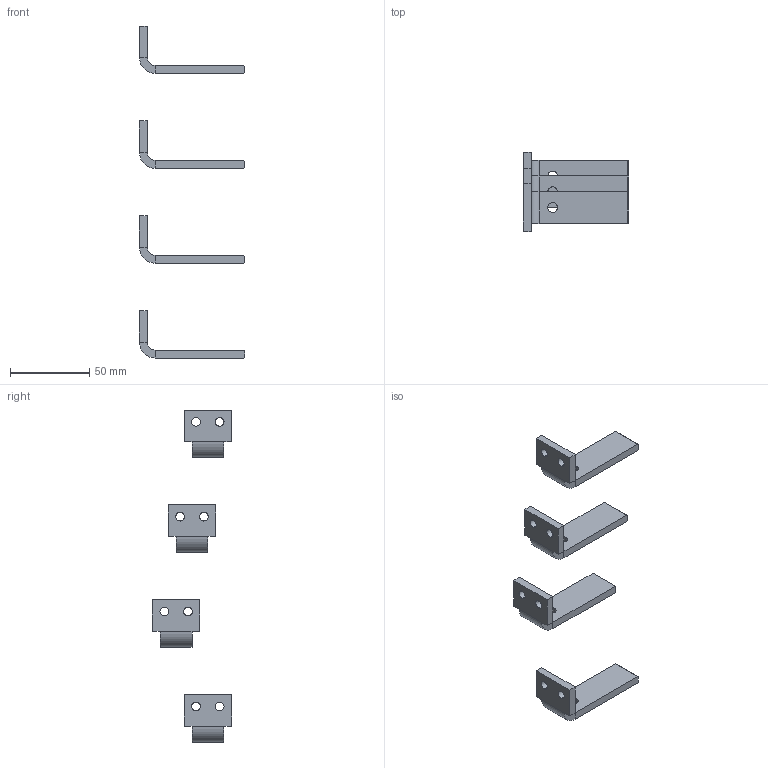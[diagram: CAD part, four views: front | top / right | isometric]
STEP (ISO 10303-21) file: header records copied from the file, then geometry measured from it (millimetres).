
FILE_DESCRIPTION(('CAx-IF Rec.Pracs.---Model Styling and Organization---1.2---2011-12-15','CAx-IF Rec.Pracs.---Geometric and Assembly Validation Properties---4.1---2014-06-16','CAx-IF Rec.Pracs.---PMI Polyline Presentation---2.0---2013-05-24'),'2;1');
FILE_NAME('R5M2WBA4P2.stp','2021-05-05T11:53:17+03:00',(''),(''),'STEP Interface 4.4 by CT CoreTechnologie','3D_Evolution4.4 by CT CoreTechnologie','');
FILE_SCHEMA(('AUTOMOTIVE_DESIGN { 1 0 10303 214 1 1 1 1 }'));
Length unit declared in the file: millimetre
Products named in the file (2): R5M2WBA4P2; RB.1292.00.00.0_-00
Assembly tree (4 placements, depth 2):
  R5M2WBA4P2
    RB.1292.00.00.0_-00  x4
Bounding box: 66.5 x 50 x 210 mm (x, y, z)
Surface area: 20866.4 mm2 (no closed solid volume)
Topology: 0 solids, 4 shells, 96 faces, 232 edges, 144 vertices
Faces by surface type: plane 64, cylinder 32
Entity records: 839 total; most frequent: DIRECTION 132, CARTESIAN_POINT 123, ORIENTED_EDGE 116, EDGE_CURVE 58, AXIS2_PLACEMENT_3D 45, VECTOR 42, LINE 42, VERTEX_POINT 36
